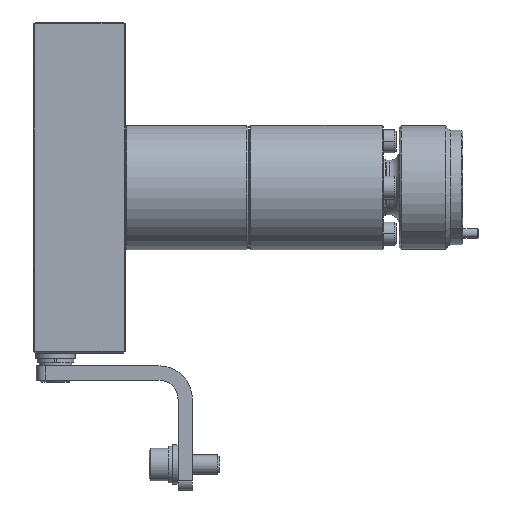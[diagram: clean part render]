
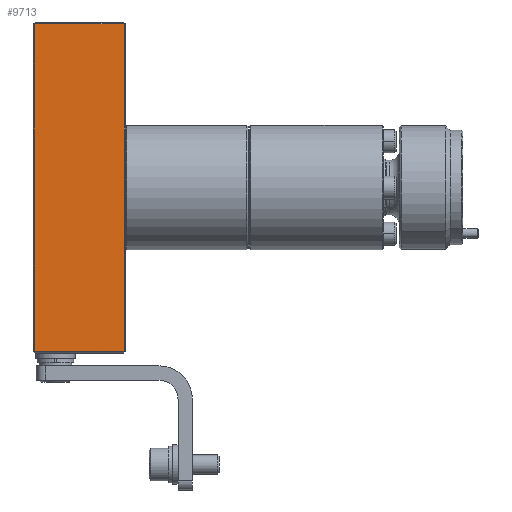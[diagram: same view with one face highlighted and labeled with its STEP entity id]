
A CAD part, front view. The second image highlights one B-rep face of the part: STEP entity #9713.
In plain terms, the highlighted planar face has unit normal (0, -1, 0).
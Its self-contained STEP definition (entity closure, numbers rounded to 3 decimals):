
#744 = VERTEX_POINT ( 'NONE', #52815 ) ;
#1392 = EDGE_CURVE ( 'NONE', #23616, #53488, #2656, .T. ) ;
#2656 = LINE ( 'NONE', #20154, #13452 ) ;
#5885 = EDGE_CURVE ( 'NONE', #27747, #744, #30574, .T. ) ;
#7971 = ORIENTED_EDGE ( 'NONE', *, *, #33435, .T. ) ;
#9713 = ADVANCED_FACE ( 'NONE', ( #25893 ), #53236, .F. ) ;
#10416 = LINE ( 'NONE', #29179, #25235 ) ;
#11547 = DIRECTION ( 'NONE',  ( 0., 0., 1. ) ) ;
#13287 = DIRECTION ( 'NONE',  ( 0., 1., 0. ) ) ;
#13452 = VECTOR ( 'NONE', #21379, 1000. ) ;
#14229 = ORIENTED_EDGE ( 'NONE', *, *, #26020, .T. ) ;
#16165 = LINE ( 'NONE', #34859, #22189 ) ;
#20154 = CARTESIAN_POINT ( 'NONE',  ( 0., -21., 51.4 ) ) ;
#21345 = DIRECTION ( 'NONE',  ( 1., 0., 0. ) ) ;
#21379 = DIRECTION ( 'NONE',  ( -1., 0., 0. ) ) ;
#22189 = VECTOR ( 'NONE', #11547, 1000. ) ;
#23616 = VERTEX_POINT ( 'NONE', #47292 ) ;
#24382 = CARTESIAN_POINT ( 'NONE',  ( -28.6, -21., -51.4 ) ) ;
#25235 = VECTOR ( 'NONE', #47850, 1000. ) ;
#25893 = FACE_OUTER_BOUND ( 'NONE', #35372, .T. ) ;
#26020 = EDGE_CURVE ( 'NONE', #53488, #27747, #10416, .T. ) ;
#27747 = VERTEX_POINT ( 'NONE', #24382 ) ;
#29179 = CARTESIAN_POINT ( 'NONE',  ( -28.6, -21., 52. ) ) ;
#30574 = LINE ( 'NONE', #53591, #55883 ) ;
#32957 = AXIS2_PLACEMENT_3D ( 'NONE', #41496, #13287, #41196 ) ;
#33435 = EDGE_CURVE ( 'NONE', #744, #23616, #16165, .T. ) ;
#34859 = CARTESIAN_POINT ( 'NONE',  ( -0.4, -21., 51.4 ) ) ;
#35372 = EDGE_LOOP ( 'NONE', ( #54922, #7971, #39445, #14229 ) ) ;
#39445 = ORIENTED_EDGE ( 'NONE', *, *, #1392, .T. ) ;
#41143 = CARTESIAN_POINT ( 'NONE',  ( -28.6, -21., 51.4 ) ) ;
#41196 = DIRECTION ( 'NONE',  ( 0., 0., 1. ) ) ;
#41496 = CARTESIAN_POINT ( 'NONE',  ( 0., -21., 52. ) ) ;
#47292 = CARTESIAN_POINT ( 'NONE',  ( -0.4, -21., 51.4 ) ) ;
#47850 = DIRECTION ( 'NONE',  ( 0., 0., -1. ) ) ;
#52815 = CARTESIAN_POINT ( 'NONE',  ( -0.4, -21., -51.4 ) ) ;
#53236 = PLANE ( 'NONE',  #32957 ) ;
#53488 = VERTEX_POINT ( 'NONE', #41143 ) ;
#53591 = CARTESIAN_POINT ( 'NONE',  ( 0., -21., -51.4 ) ) ;
#54922 = ORIENTED_EDGE ( 'NONE', *, *, #5885, .T. ) ;
#55883 = VECTOR ( 'NONE', #21345, 1000. ) ;
